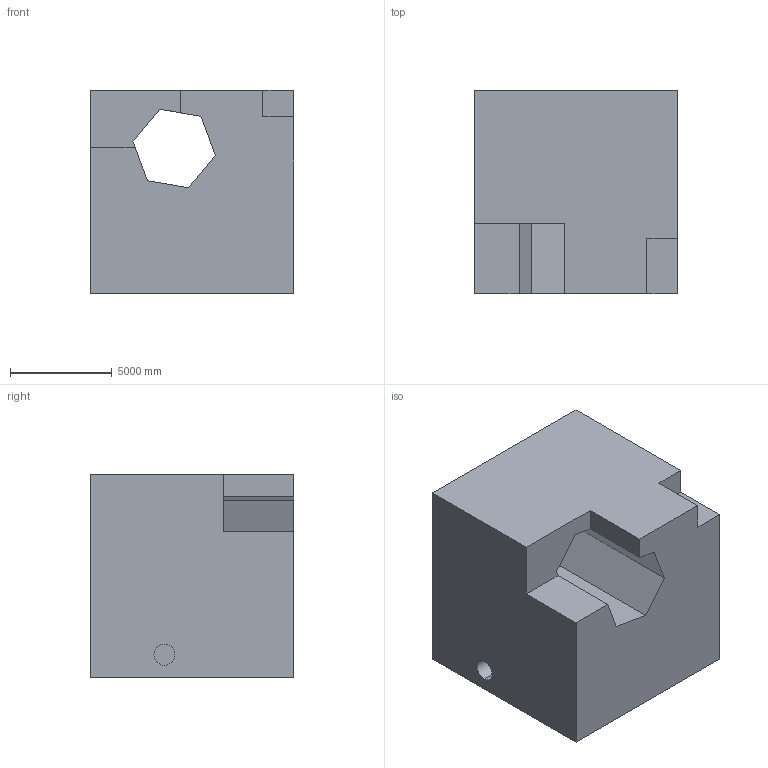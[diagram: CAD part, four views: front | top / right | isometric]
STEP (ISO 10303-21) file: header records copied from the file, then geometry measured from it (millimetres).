
FILE_DESCRIPTION (( 'STEP AP203' ), '1' );
FILE_NAME ('133.STEP', '2022-09-06T15:10:18', ( 'user' ), ( '' ), 'SwSTEP 2.0', 'SolidWorks 2021', '' );
FILE_SCHEMA (( 'CONFIG_CONTROL_DESIGN' ));
Length unit declared in the file: centimetre
Products named in the file (1): 133
Bounding box: 10000 x 10000 x 10000 mm (x, y, z)
Volume: 846987122007.2 mm3; surface area: 697925487.9 mm2
Topology: 1 solids, 1 shells, 21 faces, 57 edges, 38 vertices
Faces by surface type: plane 19, cylinder 2
Entity records: 736 total; most frequent: CARTESIAN_POINT 117, ORIENTED_EDGE 114, DIRECTION 105, EDGE_CURVE 57, LINE 53, VECTOR 53, VERTEX_POINT 38, AXIS2_PLACEMENT_3D 26
